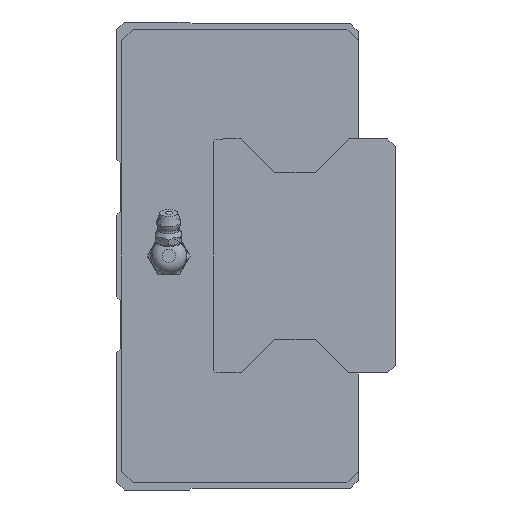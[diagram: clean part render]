
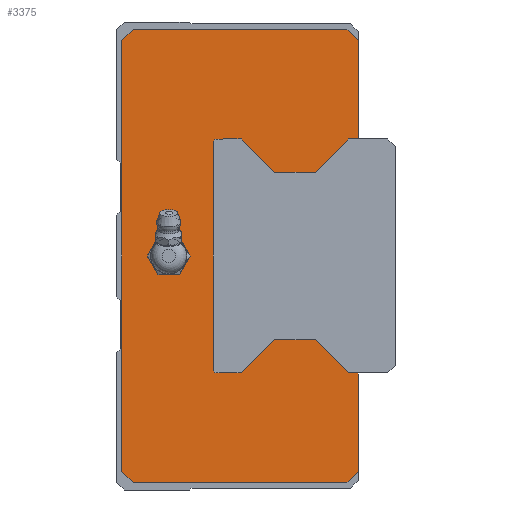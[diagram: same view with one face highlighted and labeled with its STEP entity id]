
A CAD part, left-side view. The second image highlights one B-rep face of the part: STEP entity #3375.
In plain terms, the highlighted planar face has unit normal (-1, 0, 0).
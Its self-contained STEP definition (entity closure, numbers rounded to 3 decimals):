
#226=CIRCLE('',#3700,4.864);
#227=CIRCLE('',#3701,1.);
#228=CIRCLE('',#3702,1.);
#665=ORIENTED_EDGE('',*,*,#1371,.T.);
#666=ORIENTED_EDGE('',*,*,#1372,.T.);
#667=ORIENTED_EDGE('',*,*,#1364,.F.);
#668=ORIENTED_EDGE('',*,*,#1336,.F.);
#669=ORIENTED_EDGE('',*,*,#1332,.F.);
#670=ORIENTED_EDGE('',*,*,#1324,.F.);
#671=ORIENTED_EDGE('',*,*,#1356,.F.);
#672=ORIENTED_EDGE('',*,*,#1309,.F.);
#673=ORIENTED_EDGE('',*,*,#1347,.F.);
#674=ORIENTED_EDGE('',*,*,#1344,.F.);
#675=ORIENTED_EDGE('',*,*,#1366,.F.);
#676=ORIENTED_EDGE('',*,*,#1373,.T.);
#677=ORIENTED_EDGE('',*,*,#1374,.T.);
#678=ORIENTED_EDGE('',*,*,#1375,.T.);
#679=ORIENTED_EDGE('',*,*,#1376,.T.);
#680=ORIENTED_EDGE('',*,*,#1377,.T.);
#681=ORIENTED_EDGE('',*,*,#1378,.T.);
#682=ORIENTED_EDGE('',*,*,#1379,.T.);
#683=ORIENTED_EDGE('',*,*,#1380,.T.);
#684=ORIENTED_EDGE('',*,*,#1381,.T.);
#685=ORIENTED_EDGE('',*,*,#1382,.T.);
#686=ORIENTED_EDGE('',*,*,#1383,.T.);
#687=ORIENTED_EDGE('',*,*,#1384,.T.);
#688=ORIENTED_EDGE('',*,*,#1385,.T.);
#689=ORIENTED_EDGE('',*,*,#1386,.T.);
#690=ORIENTED_EDGE('',*,*,#1387,.T.);
#691=ORIENTED_EDGE('',*,*,#1388,.T.);
#1309=EDGE_CURVE('',#1712,#1713,#1998,.T.);
#1324=EDGE_CURVE('',#1727,#1728,#2013,.T.);
#1332=EDGE_CURVE('',#1728,#1734,#2020,.T.);
#1336=EDGE_CURVE('',#1734,#1736,#2024,.T.);
#1344=EDGE_CURVE('',#1743,#1744,#2032,.T.);
#1347=EDGE_CURVE('',#1744,#1712,#2035,.T.);
#1356=EDGE_CURVE('',#1713,#1727,#2043,.T.);
#1364=EDGE_CURVE('',#1736,#1747,#2051,.T.);
#1366=EDGE_CURVE('',#1750,#1743,#2053,.T.);
#1371=EDGE_CURVE('',#1754,#1754,#226,.T.);
#1372=EDGE_CURVE('',#1755,#1747,#2058,.T.);
#1373=EDGE_CURVE('',#1750,#1756,#2059,.T.);
#1374=EDGE_CURVE('',#1756,#1757,#2060,.T.);
#1375=EDGE_CURVE('',#1757,#1758,#2061,.T.);
#1376=EDGE_CURVE('',#1758,#1759,#2062,.T.);
#1377=EDGE_CURVE('',#1759,#1760,#2063,.T.);
#1378=EDGE_CURVE('',#1760,#1761,#2064,.T.);
#1379=EDGE_CURVE('',#1761,#1762,#2065,.T.);
#1380=EDGE_CURVE('',#1762,#1763,#227,.T.);
#1381=EDGE_CURVE('',#1763,#1764,#2066,.T.);
#1382=EDGE_CURVE('',#1764,#1765,#228,.T.);
#1383=EDGE_CURVE('',#1765,#1766,#2067,.T.);
#1384=EDGE_CURVE('',#1766,#1767,#2068,.T.);
#1385=EDGE_CURVE('',#1767,#1768,#2069,.T.);
#1386=EDGE_CURVE('',#1768,#1769,#2070,.T.);
#1387=EDGE_CURVE('',#1769,#1770,#2071,.T.);
#1388=EDGE_CURVE('',#1770,#1755,#2072,.T.);
#1712=VERTEX_POINT('',#5224);
#1713=VERTEX_POINT('',#5226);
#1727=VERTEX_POINT('',#5255);
#1728=VERTEX_POINT('',#5257);
#1734=VERTEX_POINT('',#5273);
#1736=VERTEX_POINT('',#5280);
#1743=VERTEX_POINT('',#5295);
#1744=VERTEX_POINT('',#5297);
#1747=VERTEX_POINT('',#5322);
#1750=VERTEX_POINT('',#5332);
#1754=VERTEX_POINT('',#5343);
#1755=VERTEX_POINT('',#5345);
#1756=VERTEX_POINT('',#5347);
#1757=VERTEX_POINT('',#5349);
#1758=VERTEX_POINT('',#5351);
#1759=VERTEX_POINT('',#5353);
#1760=VERTEX_POINT('',#5355);
#1761=VERTEX_POINT('',#5357);
#1762=VERTEX_POINT('',#5359);
#1763=VERTEX_POINT('',#5361);
#1764=VERTEX_POINT('',#5363);
#1765=VERTEX_POINT('',#5365);
#1766=VERTEX_POINT('',#5367);
#1767=VERTEX_POINT('',#5369);
#1768=VERTEX_POINT('',#5371);
#1769=VERTEX_POINT('',#5373);
#1770=VERTEX_POINT('',#5375);
#1998=LINE('',#5225,#2278);
#2013=LINE('',#5256,#2293);
#2020=LINE('',#5272,#2300);
#2024=LINE('',#5279,#2304);
#2032=LINE('',#5296,#2312);
#2035=LINE('',#5301,#2315);
#2043=LINE('',#5315,#2323);
#2051=LINE('',#5329,#2331);
#2053=LINE('',#5334,#2333);
#2058=LINE('',#5344,#2338);
#2059=LINE('',#5346,#2339);
#2060=LINE('',#5348,#2340);
#2061=LINE('',#5350,#2341);
#2062=LINE('',#5352,#2342);
#2063=LINE('',#5354,#2343);
#2064=LINE('',#5356,#2344);
#2065=LINE('',#5358,#2345);
#2066=LINE('',#5362,#2346);
#2067=LINE('',#5366,#2347);
#2068=LINE('',#5368,#2348);
#2069=LINE('',#5370,#2349);
#2070=LINE('',#5372,#2350);
#2071=LINE('',#5374,#2351);
#2072=LINE('',#5376,#2352);
#2278=VECTOR('',#4280,1000.);
#2293=VECTOR('',#4297,1000.);
#2300=VECTOR('',#4310,1000.);
#2304=VECTOR('',#4316,1000.);
#2312=VECTOR('',#4326,1000.);
#2315=VECTOR('',#4331,1000.);
#2323=VECTOR('',#4349,1000.);
#2331=VECTOR('',#4361,1000.);
#2333=VECTOR('',#4365,1000.);
#2338=VECTOR('',#4374,1000.);
#2339=VECTOR('',#4375,1000.);
#2340=VECTOR('',#4376,1000.);
#2341=VECTOR('',#4377,1000.);
#2342=VECTOR('',#4378,1000.);
#2343=VECTOR('',#4379,1000.);
#2344=VECTOR('',#4380,1000.);
#2345=VECTOR('',#4381,1000.);
#2346=VECTOR('',#4384,1000.);
#2347=VECTOR('',#4387,1000.);
#2348=VECTOR('',#4388,1000.);
#2349=VECTOR('',#4389,1000.);
#2350=VECTOR('',#4390,1000.);
#2351=VECTOR('',#4391,1000.);
#2352=VECTOR('',#4392,1000.);
#2642=EDGE_LOOP('',(#665));
#2643=EDGE_LOOP('',(#666,#667,#668,#669,#670,#671,#672,#673,#674,#675,#676,
#677,#678,#679,#680,#681,#682,#683,#684,#685,#686,#687,#688,#689,#690,#691));
#2983=FACE_BOUND('',#2642,.T.);
#2984=FACE_BOUND('',#2643,.T.);
#3207=PLANE('',#3699);
#3375=ADVANCED_FACE('',(#2983,#2984),#3207,.F.);
#3699=AXIS2_PLACEMENT_3D('',#5341,#4370,#4371);
#3700=AXIS2_PLACEMENT_3D('',#5342,#4372,#4373);
#3701=AXIS2_PLACEMENT_3D('',#5360,#4382,#4383);
#3702=AXIS2_PLACEMENT_3D('',#5364,#4385,#4386);
#4280=DIRECTION('',(0.,0.707,0.707));
#4297=DIRECTION('',(0.,-0.707,0.707));
#4310=DIRECTION('',(0.,-1.,0.));
#4316=DIRECTION('',(0.,-0.707,-0.707));
#4326=DIRECTION('',(0.,0.707,-0.707));
#4331=DIRECTION('',(0.,1.,0.));
#4349=DIRECTION('',(0.,0.,1.));
#4361=DIRECTION('',(0.,0.,-1.));
#4365=DIRECTION('',(0.,0.,-1.));
#4370=DIRECTION('',(1.,0.,0.));
#4371=DIRECTION('',(0.,0.,-1.));
#4372=DIRECTION('',(1.,0.,0.));
#4373=DIRECTION('',(0.,0.,-1.));
#4374=DIRECTION('',(0.,-1.,0.));
#4375=DIRECTION('',(0.,1.,0.));
#4376=DIRECTION('',(0.,0.707,0.707));
#4377=DIRECTION('',(0.,1.,0.));
#4378=DIRECTION('',(0.,0.707,-0.707));
#4379=DIRECTION('',(0.,1.,0.));
#4380=DIRECTION('',(0.,0.707,0.707));
#4381=DIRECTION('',(0.,1.,0.));
#4382=DIRECTION('',(1.,0.,0.));
#4383=DIRECTION('',(0.,0.,-1.));
#4384=DIRECTION('',(0.,0.,1.));
#4385=DIRECTION('',(1.,0.,0.));
#4386=DIRECTION('',(0.,0.,-1.));
#4387=DIRECTION('',(0.,-1.,0.));
#4388=DIRECTION('',(0.,-0.707,0.707));
#4389=DIRECTION('',(0.,-1.,0.));
#4390=DIRECTION('',(0.,-0.707,-0.707));
#4391=DIRECTION('',(0.,-1.,0.));
#4392=DIRECTION('',(0.,-0.707,0.707));
#5224=CARTESIAN_POINT('',(-122.45,60.6,-61.));
#5225=CARTESIAN_POINT('',(-122.45,60.6,-61.));
#5226=CARTESIAN_POINT('',(-122.45,63.6,-58.));
#5255=CARTESIAN_POINT('',(-122.45,63.6,58.));
#5256=CARTESIAN_POINT('',(-122.45,63.6,58.));
#5257=CARTESIAN_POINT('',(-122.45,60.6,61.));
#5272=CARTESIAN_POINT('',(-122.45,60.6,61.));
#5273=CARTESIAN_POINT('',(-122.45,3.,61.));
#5279=CARTESIAN_POINT('',(-122.45,3.,61.));
#5280=CARTESIAN_POINT('',(-122.45,0.,58.));
#5295=CARTESIAN_POINT('',(-122.45,0.,-58.));
#5296=CARTESIAN_POINT('',(-122.45,0.,-58.));
#5297=CARTESIAN_POINT('',(-122.45,3.,-61.));
#5301=CARTESIAN_POINT('',(-122.45,3.,-61.));
#5315=CARTESIAN_POINT('',(-122.45,63.6,-58.));
#5322=CARTESIAN_POINT('',(-122.45,0.,31.5));
#5329=CARTESIAN_POINT('',(-122.45,0.,58.));
#5332=CARTESIAN_POINT('',(-122.45,0.,-31.5));
#5334=CARTESIAN_POINT('',(-122.45,0.,58.));
#5341=CARTESIAN_POINT('',(-122.45,0.,0.));
#5342=CARTESIAN_POINT('',(-122.45,51.,0.));
#5343=CARTESIAN_POINT('',(-122.45,51.,-4.864));
#5344=CARTESIAN_POINT('',(-122.45,2.5,31.5));
#5345=CARTESIAN_POINT('',(-122.45,2.5,31.5));
#5346=CARTESIAN_POINT('',(-122.45,-8.,-31.5));
#5347=CARTESIAN_POINT('',(-122.45,2.5,-31.5));
#5348=CARTESIAN_POINT('',(-122.45,2.5,-31.5));
#5349=CARTESIAN_POINT('',(-122.45,11.5,-22.5));
#5350=CARTESIAN_POINT('',(-122.45,11.5,-22.5));
#5351=CARTESIAN_POINT('',(-122.45,22.5,-22.5));
#5352=CARTESIAN_POINT('',(-122.45,22.5,-22.5));
#5353=CARTESIAN_POINT('',(-122.45,31.5,-31.5));
#5354=CARTESIAN_POINT('',(-122.45,31.5,-31.5));
#5355=CARTESIAN_POINT('',(-122.45,36.26,-31.5));
#5356=CARTESIAN_POINT('',(-122.45,36.26,-31.5));
#5357=CARTESIAN_POINT('',(-122.45,36.51,-31.25));
#5358=CARTESIAN_POINT('',(-122.45,36.51,-31.25));
#5359=CARTESIAN_POINT('',(-122.45,37.339,-31.25));
#5360=CARTESIAN_POINT('',(-122.45,38.,-30.5));
#5361=CARTESIAN_POINT('',(-122.45,39.,-30.5));
#5362=CARTESIAN_POINT('',(-122.45,39.,-30.5));
#5363=CARTESIAN_POINT('',(-122.45,39.,30.5));
#5364=CARTESIAN_POINT('',(-122.45,38.,30.5));
#5365=CARTESIAN_POINT('',(-122.45,37.339,31.25));
#5366=CARTESIAN_POINT('',(-122.45,37.339,31.25));
#5367=CARTESIAN_POINT('',(-122.45,36.51,31.25));
#5368=CARTESIAN_POINT('',(-122.45,36.51,31.25));
#5369=CARTESIAN_POINT('',(-122.45,36.26,31.5));
#5370=CARTESIAN_POINT('',(-122.45,36.26,31.5));
#5371=CARTESIAN_POINT('',(-122.45,31.5,31.5));
#5372=CARTESIAN_POINT('',(-122.45,31.5,31.5));
#5373=CARTESIAN_POINT('',(-122.45,22.5,22.5));
#5374=CARTESIAN_POINT('',(-122.45,22.5,22.5));
#5375=CARTESIAN_POINT('',(-122.45,11.5,22.5));
#5376=CARTESIAN_POINT('',(-122.45,11.5,22.5));
